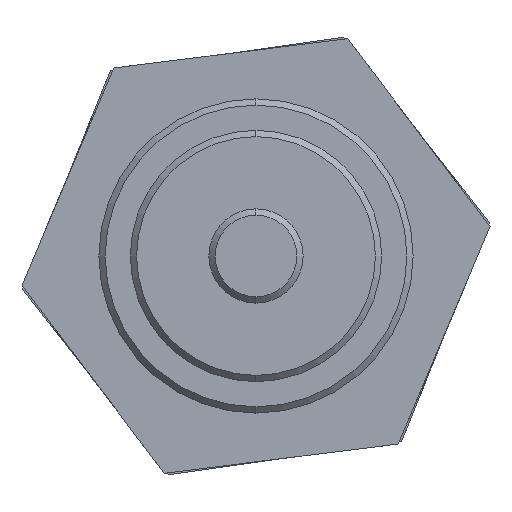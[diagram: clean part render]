
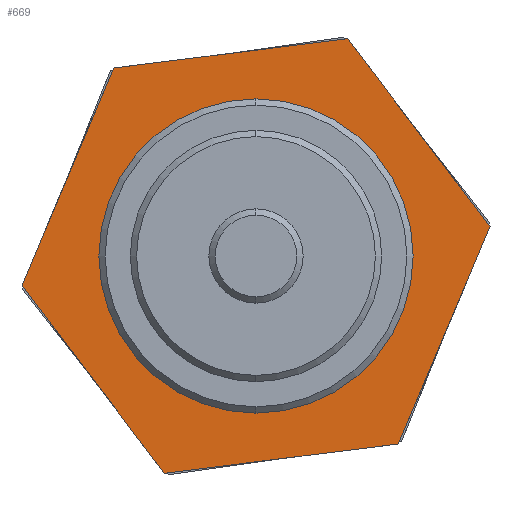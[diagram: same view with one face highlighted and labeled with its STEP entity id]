
A CAD part, left-side view. The second image highlights one B-rep face of the part: STEP entity #669.
In plain terms, the highlighted planar face has unit normal (-1, 0, 0).
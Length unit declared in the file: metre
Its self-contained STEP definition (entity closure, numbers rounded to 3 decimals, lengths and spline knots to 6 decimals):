
#2 = VERTEX_POINT ( 'NONE', #270 ) ;
#4 = CARTESIAN_POINT ( 'NONE',  ( -0.0015, -0.007596, 0.0065 ) ) ;
#14 = DIRECTION ( 'NONE',  ( 1., 0., 0. ) ) ;
#15 = CIRCLE ( 'NONE', #948, 0.0045 ) ;
#28 = FACE_BOUND ( 'NONE', #1396, .T. ) ;
#38 = VECTOR ( 'NONE', #1062, 1. ) ;
#78 = LINE ( 'NONE', #1147, #647 ) ;
#114 = DIRECTION ( 'NONE',  ( 0., 0., -1. ) ) ;
#120 = EDGE_CURVE ( 'NONE', #456, #2, #1269, .T. ) ;
#163 = CARTESIAN_POINT ( 'NONE',  ( -0.0015, 0., -0.0045 ) ) ;
#167 = VERTEX_POINT ( 'NONE', #380 ) ;
#173 = EDGE_CURVE ( 'NONE', #167, #367, #602, .T. ) ;
#193 = ORIENTED_EDGE ( 'NONE', *, *, #1323, .F. ) ;
#217 = CARTESIAN_POINT ( 'NONE',  ( -0.0015, 0.003753, 0.0065 ) ) ;
#270 = CARTESIAN_POINT ( 'NONE',  ( -0.0015, 0.007506, 0. ) ) ;
#275 = VECTOR ( 'NONE', #1111, 1. ) ;
#287 = CARTESIAN_POINT ( 'NONE',  ( -0.0015, -0.003753, -0.0065 ) ) ;
#289 = FACE_OUTER_BOUND ( 'NONE', #576, .T. ) ;
#294 = CIRCLE ( 'NONE', #794, 0.0045 ) ;
#296 = ORIENTED_EDGE ( 'NONE', *, *, #120, .F. ) ;
#298 = VERTEX_POINT ( 'NONE', #217 ) ;
#322 = CARTESIAN_POINT ( 'NONE',  ( -0.0015, 0., 0.0065 ) ) ;
#367 = VERTEX_POINT ( 'NONE', #287 ) ;
#372 = ORIENTED_EDGE ( 'NONE', *, *, #1014, .F. ) ;
#380 = CARTESIAN_POINT ( 'NONE',  ( -0.0015, -0.007506, 0. ) ) ;
#419 = ORIENTED_EDGE ( 'NONE', *, *, #598, .F. ) ;
#423 = CARTESIAN_POINT ( 'NONE',  ( -0.0015, 0., 0. ) ) ;
#438 = CARTESIAN_POINT ( 'NONE',  ( -0.0015, 0.003753, -0.0065 ) ) ;
#456 = VERTEX_POINT ( 'NONE', #438 ) ;
#461 = DIRECTION ( 'NONE',  ( 0., 1., 0. ) ) ;
#476 = CARTESIAN_POINT ( 'NONE',  ( -0.0015, 0.007506, 0. ) ) ;
#527 = DIRECTION ( 'NONE',  ( 0., 0., -1. ) ) ;
#576 = EDGE_LOOP ( 'NONE', ( #1339, #659, #581, #193, #372, #296 ) ) ;
#581 = ORIENTED_EDGE ( 'NONE', *, *, #622, .F. ) ;
#598 = EDGE_CURVE ( 'NONE', #755, #812, #294, .T. ) ;
#602 = LINE ( 'NONE', #1074, #879 ) ;
#606 = VECTOR ( 'NONE', #699, 1. ) ;
#622 = EDGE_CURVE ( 'NONE', #623, #167, #967, .T. ) ;
#623 = VERTEX_POINT ( 'NONE', #920 ) ;
#634 = CARTESIAN_POINT ( 'NONE',  ( -0.0015, 0., 0.0045 ) ) ;
#647 = VECTOR ( 'NONE', #461, 1. ) ;
#659 = ORIENTED_EDGE ( 'NONE', *, *, #173, .F. ) ;
#669 = ADVANCED_FACE ( 'NONE', ( #28, #289 ), #1355, .F. ) ;
#674 = VECTOR ( 'NONE', #689, 1. ) ;
#689 = DIRECTION ( 'NONE',  ( 0., -0.5, -0.866 ) ) ;
#699 = DIRECTION ( 'NONE',  ( 0., -0.5, 0.866 ) ) ;
#755 = VERTEX_POINT ( 'NONE', #163 ) ;
#794 = AXIS2_PLACEMENT_3D ( 'NONE', #1453, #797, #114 ) ;
#797 = DIRECTION ( 'NONE',  ( -1., 0., 0. ) ) ;
#812 = VERTEX_POINT ( 'NONE', #634 ) ;
#813 = DIRECTION ( 'NONE',  ( 0., 0., -1. ) ) ;
#879 = VECTOR ( 'NONE', #1168, 1. ) ;
#920 = CARTESIAN_POINT ( 'NONE',  ( -0.0015, -0.003753, 0.0065 ) ) ;
#948 = AXIS2_PLACEMENT_3D ( 'NONE', #423, #1210, #527 ) ;
#967 = LINE ( 'NONE', #1343, #674 ) ;
#985 = CARTESIAN_POINT ( 'NONE',  ( -0.0015, 0.003753, 0.0065 ) ) ;
#988 = LINE ( 'NONE', #985, #606 ) ;
#1014 = EDGE_CURVE ( 'NONE', #2, #298, #988, .T. ) ;
#1024 = ORIENTED_EDGE ( 'NONE', *, *, #1312, .F. ) ;
#1062 = DIRECTION ( 'NONE',  ( 0., 0.5, 0.866 ) ) ;
#1064 = EDGE_CURVE ( 'NONE', #367, #456, #78, .T. ) ;
#1074 = CARTESIAN_POINT ( 'NONE',  ( -0.0015, -0.003753, -0.0065 ) ) ;
#1111 = DIRECTION ( 'NONE',  ( 0., -1., 0. ) ) ;
#1147 = CARTESIAN_POINT ( 'NONE',  ( -0.0015, 0., -0.0065 ) ) ;
#1153 = LINE ( 'NONE', #322, #275 ) ;
#1168 = DIRECTION ( 'NONE',  ( 0., 0.5, -0.866 ) ) ;
#1210 = DIRECTION ( 'NONE',  ( -1., 0., 0. ) ) ;
#1268 = AXIS2_PLACEMENT_3D ( 'NONE', #4, #14, #813 ) ;
#1269 = LINE ( 'NONE', #476, #38 ) ;
#1312 = EDGE_CURVE ( 'NONE', #812, #755, #15, .T. ) ;
#1323 = EDGE_CURVE ( 'NONE', #298, #623, #1153, .T. ) ;
#1339 = ORIENTED_EDGE ( 'NONE', *, *, #1064, .F. ) ;
#1343 = CARTESIAN_POINT ( 'NONE',  ( -0.0015, -0.007506, 0. ) ) ;
#1355 = PLANE ( 'NONE',  #1268 ) ;
#1396 = EDGE_LOOP ( 'NONE', ( #419, #1024 ) ) ;
#1453 = CARTESIAN_POINT ( 'NONE',  ( -0.0015, 0., 0. ) ) ;
